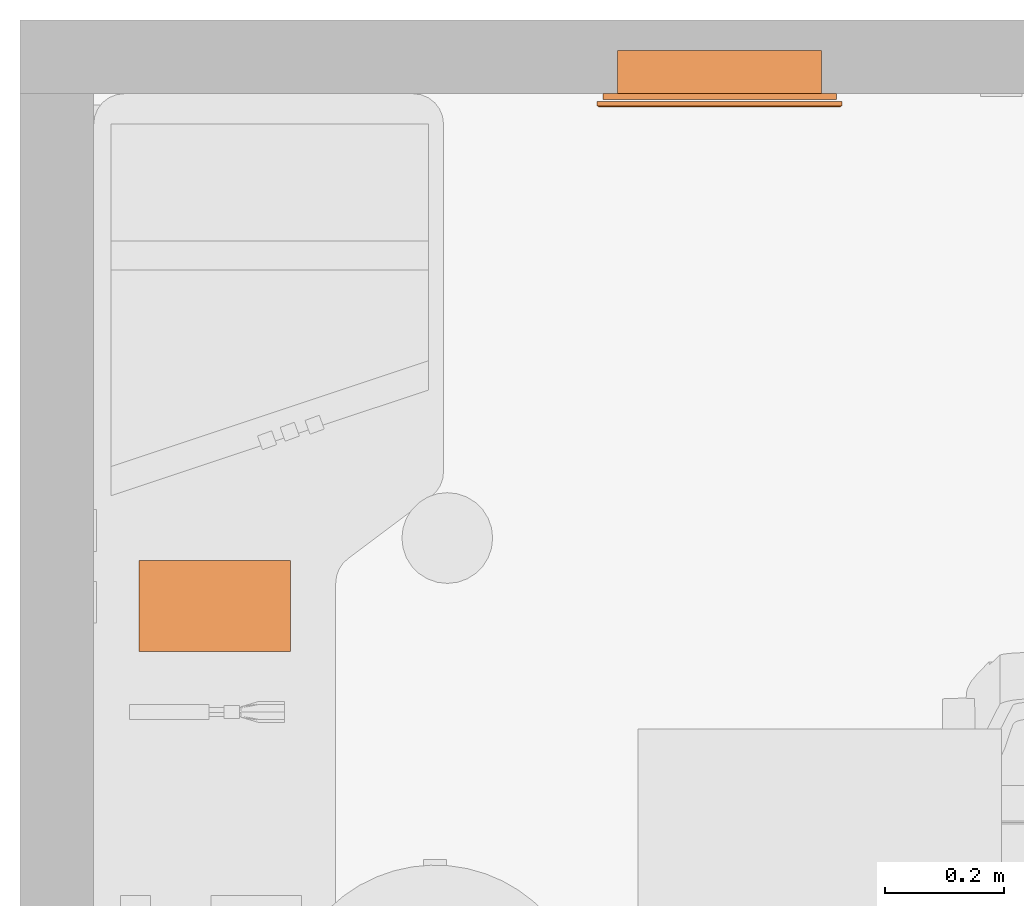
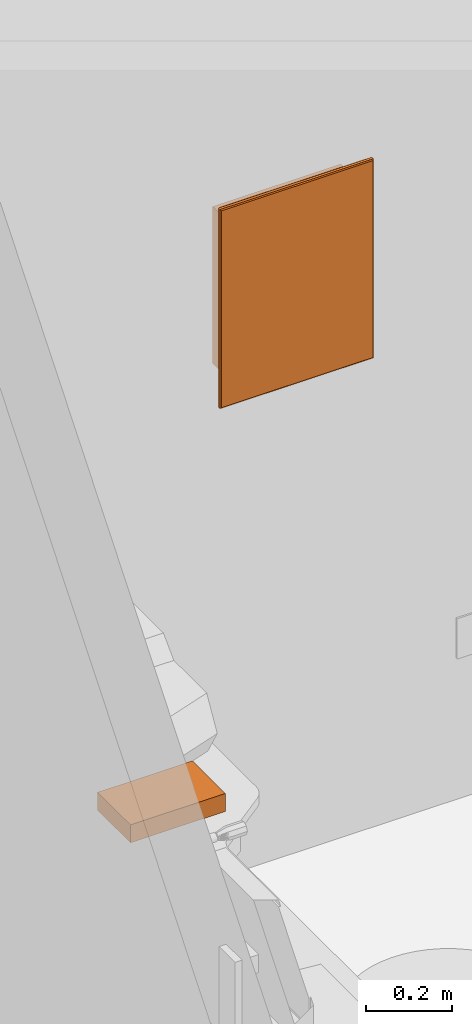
# One storey, part 11 of 11: 2 proxies.
"""IFC2X3 building model written with IfcOpenShell, lengths in feet."""

from ifc_helpers import new_model, entity, si_unit, converted_unit, derived_unit, direction, frame, origin, place, context, subcontext, project, spatial, face_set, faceted_brep, surface_model, source, transform, mapped, material, type_object, type_shapes, element, save


model = new_model("IFC2X3")

# Units and contexts
model_context = context("Model", 3, precision=0.0001, world=origin(), true_north=direction((6.12303176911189e-17, 1.0)))
body_context = subcontext(model_context, "Body", "Model", "MODEL_VIEW")
ifc_project = project(units=[converted_unit("LENGTHUNIT", "FOOT", entity("IfcRatioMeasure", 0.3048), si_unit("LENGTHUNIT", "METRE"), dimensions=[1, 0, 0, 0, 0, 0, 0]), converted_unit("AREAUNIT", "SQUARE FOOT", entity("IfcRatioMeasure", 0.09290304), si_unit("AREAUNIT", "SQUARE_METRE"), dimensions=[2, 0, 0, 0, 0, 0, 0]), converted_unit("VOLUMEUNIT", "CUBIC FOOT", entity("IfcRatioMeasure", 0.028316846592), si_unit("VOLUMEUNIT", "CUBIC_METRE"), dimensions=[3, 0, 0, 0, 0, 0, 0]), converted_unit("PLANEANGLEUNIT", "DEGREE", entity("IfcRatioMeasure", 0.0174532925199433), si_unit("PLANEANGLEUNIT", "RADIAN"), dimensions=[0, 0, 0, 0, 0, 0, 0]), si_unit("MASSUNIT", "GRAM", prefix="KILO"), derived_unit("MASSDENSITYUNIT", [(si_unit("MASSUNIT", "GRAM", prefix="KILO"), 1), (si_unit("LENGTHUNIT", "METRE"), -3)]), si_unit("TIMEUNIT", "SECOND"), si_unit("FREQUENCYUNIT", "HERTZ"), si_unit("THERMODYNAMICTEMPERATUREUNIT", "DEGREE_CELSIUS"), derived_unit("THERMALTRANSMITTANCEUNIT", [(si_unit("MASSUNIT", "GRAM", prefix="KILO"), 1), (si_unit("THERMODYNAMICTEMPERATUREUNIT", "KELVIN"), -1), (si_unit("TIMEUNIT", "SECOND"), -3)]), derived_unit("VOLUMETRICFLOWRATEUNIT", [(si_unit("LENGTHUNIT", "METRE"), 3), (si_unit("TIMEUNIT", "SECOND"), -1)]), si_unit("ELECTRICCURRENTUNIT", "AMPERE"), si_unit("ELECTRICVOLTAGEUNIT", "VOLT"), si_unit("POWERUNIT", "WATT"), si_unit("FORCEUNIT", "NEWTON"), si_unit("ILLUMINANCEUNIT", "LUX"), si_unit("LUMINOUSFLUXUNIT", "LUMEN"), si_unit("LUMINOUSINTENSITYUNIT", "CANDELA"), derived_unit("USERDEFINED", [(si_unit("MASSUNIT", "GRAM", prefix="KILO"), -1), (si_unit("LENGTHUNIT", "METRE"), -2), (si_unit("TIMEUNIT", "SECOND"), 3), (si_unit("LUMINOUSFLUXUNIT", "LUMEN"), 1)]), derived_unit("LINEARVELOCITYUNIT", [(si_unit("LENGTHUNIT", "METRE"), 1), (si_unit("TIMEUNIT", "SECOND"), -1)]), si_unit("PRESSUREUNIT", "PASCAL"), derived_unit("USERDEFINED", [(si_unit("LENGTHUNIT", "METRE"), -2), (si_unit("MASSUNIT", "GRAM", prefix="KILO"), 1), (si_unit("TIMEUNIT", "SECOND"), -2)])], contexts=[model_context])

# Site, building, storey, space
site_placement = place(None, origin())
site = spatial("IfcSite", under=ifc_project, at=site_placement, Name="Default", CompositionType="ELEMENT")
building_placement = place(site_placement, origin())
building = spatial("IfcBuilding", under=site, at=building_placement, Name="EYE CLINIC:  OPTHALMOLOGY AND OPTOMETRY SERVICES (Ch. 233)", CompositionType="ELEMENT")
storey_placement = place(building_placement, origin())
storey = spatial("IfcBuildingStorey", under=building, at=storey_placement, Name="DATUM", CompositionType="ELEMENT", Elevation=0.0)
space_placement = place(storey_placement, origin())
space = spatial("IfcSpace", under=storey, at=space_placement, Name="(OPET2)", CompositionType="ELEMENT", InteriorOrExteriorSpace="INTERNAL")

# Proxies
ifc_material = material(Name="EquipSpace")
building_element_proxy_type_1 = type_object("IfcBuildingElementProxyType", Name="M5705 - Gauge, Distance, Pupillary", PredefinedType="NOTDEFINED", material=ifc_material)
shared_shape_1 = source(origin(), body_context, "Body", "SurfaceModel", [
    surface_model("IfcFaceBasedSurfaceModel", [(0.249999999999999, 0.416666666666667, 0.157529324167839), (-0.25, 0.416666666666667, 0.157529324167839), (-0.25, -0.166666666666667, 0.157529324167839), (-0.105662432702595, -0.416666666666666, 0.157529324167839), (0.105662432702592, -0.416666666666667, 0.157529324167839), (0.249999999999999, -0.166666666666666, 0.157529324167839), (-0.229166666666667, 0.402622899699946, 0.157529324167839), (0.229166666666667, 0.402622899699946, 0.157529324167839), (0.229166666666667, 0.152622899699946, 0.157529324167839), (-0.229166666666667, 0.152622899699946, 0.157529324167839), (0.249999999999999, 0.416666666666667, 0.0), (0.249999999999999, -0.166666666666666, 0.0), (0.105662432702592, -0.416666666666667, 0.0), (-0.105662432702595, -0.416666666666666, 0.0), (-0.25, -0.166666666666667, 0.0), (-0.25, 0.416666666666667, 0.0), (0.229166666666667, 0.402622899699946, 0.150826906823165), (-0.229166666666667, 0.402622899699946, 0.150826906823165), (-0.229166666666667, 0.152622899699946, 0.150826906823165), (0.229166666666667, 0.152622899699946, 0.150826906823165), (0.0833333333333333, -0.125314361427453, 0.166666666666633), (0.0804938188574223, -0.10374610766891, 0.166666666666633), (0.0721687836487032, -0.0836476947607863, 0.166666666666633), (0.058925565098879, -0.0663887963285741, 0.166666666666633), (0.0416666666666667, -0.0531455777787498, 0.166666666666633), (0.0215682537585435, -0.0448205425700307, 0.166666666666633), (0.0, -0.0419810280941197, 0.166666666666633), (-0.0215682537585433, -0.0448205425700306, 0.166666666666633), (-0.0416666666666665, -0.0531455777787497, 0.166666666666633), (-0.0589255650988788, -0.0663887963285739, 0.166666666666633), (-0.0721687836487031, -0.0836476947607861, 0.166666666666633), (-0.0804938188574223, -0.103746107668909, 0.166666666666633), (-0.0833333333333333, -0.125314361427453, 0.166666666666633), (-0.0804938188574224, -0.146882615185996, 0.166666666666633), (-0.0721687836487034, -0.166981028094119, 0.166666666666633), (-0.0589255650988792, -0.184239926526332, 0.166666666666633), (-0.0416666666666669, -0.197483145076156, 0.166666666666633), (-0.0215682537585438, -0.205808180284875, 0.166666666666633), (0.0, -0.208647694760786, 0.166666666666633), (0.021568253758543, -0.205808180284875, 0.166666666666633), (0.0416666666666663, -0.197483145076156, 0.166666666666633), (0.0589255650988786, -0.184239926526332, 0.166666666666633), (0.072168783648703, -0.16698102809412, 0.166666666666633), (0.0804938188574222, -0.146882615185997, 0.166666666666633), (0.0833333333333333, -0.125314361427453, 0.157529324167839), (0.0804938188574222, -0.146882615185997, 0.157529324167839), (0.072168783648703, -0.16698102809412, 0.157529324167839), (0.0589255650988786, -0.184239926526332, 0.157529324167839), (0.0416666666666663, -0.197483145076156, 0.157529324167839), (0.021568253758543, -0.205808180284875, 0.157529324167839), (0.0, -0.208647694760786, 0.157529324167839), (-0.0215682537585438, -0.205808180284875, 0.157529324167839), (-0.0416666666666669, -0.197483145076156, 0.157529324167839), (-0.0589255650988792, -0.184239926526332, 0.157529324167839), (-0.0721687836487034, -0.166981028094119, 0.157529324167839), (-0.0804938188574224, -0.146882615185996, 0.157529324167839), (-0.0833333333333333, -0.125314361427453, 0.157529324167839), (-0.0804938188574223, -0.103746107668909, 0.157529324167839), (-0.0721687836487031, -0.0836476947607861, 0.157529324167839), (-0.0589255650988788, -0.0663887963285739, 0.157529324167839), (-0.0416666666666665, -0.0531455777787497, 0.157529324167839), (-0.0215682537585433, -0.0448205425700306, 0.157529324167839), (0.0, -0.0419810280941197, 0.157529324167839), (0.0215682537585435, -0.0448205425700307, 0.157529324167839), (0.0416666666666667, -0.0531455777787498, 0.157529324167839), (0.058925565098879, -0.0663887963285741, 0.157529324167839), (0.0721687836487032, -0.0836476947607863, 0.157529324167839), (0.0804938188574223, -0.10374610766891, 0.157529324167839)], [face_set([[[0, 1, 2, 3, 4, 5], [6, 7, 8, 9]], [[10, 11, 12, 13, 14, 15]], [[1, 0, 10, 15]], [[2, 1, 15, 14]], [[3, 2, 14, 13]], [[4, 3, 13, 12]], [[5, 4, 12, 11]], [[0, 5, 11, 10]], [[16, 17, 18, 19]], [[17, 16, 7, 6]], [[18, 17, 6, 9]], [[19, 18, 9, 8]], [[16, 19, 8, 7]]]), face_set([[[20, 21, 22, 23, 24, 25, 26, 27, 28, 29, 30, 31, 32, 33, 34, 35, 36, 37, 38, 39, 40, 41, 42, 43]], [[44, 45, 46, 47, 48, 49, 50, 51, 52, 53, 54, 55, 56, 57, 58, 59, 60, 61, 62, 63, 64, 65, 66, 67]], [[56, 55, 33, 32]], [[55, 54, 34, 33]], [[53, 52, 36, 35]], [[54, 53, 35, 34]], [[52, 51, 37, 36]], [[38, 37, 51, 50]], [[50, 49, 39, 38]], [[49, 48, 40, 39]], [[47, 46, 42, 41]], [[48, 47, 41, 40]], [[46, 45, 43, 42]], [[20, 43, 45, 44]], [[44, 67, 21, 20]], [[67, 66, 22, 21]], [[65, 64, 24, 23]], [[66, 65, 23, 22]], [[64, 63, 25, 24]], [[26, 25, 63, 62]], [[62, 61, 27, 26]], [[61, 60, 28, 27]], [[59, 58, 30, 29]], [[60, 59, 29, 28]], [[58, 57, 31, 30]], [[32, 31, 57, 56]]])]),
    surface_model("IfcFaceBasedSurfaceModel", [(-0.25, 0.416666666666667, 0.166666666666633), (-0.25, 0.0, 0.166666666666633), (-0.25, -0.416666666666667, 0.166666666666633), (0.25, -0.416666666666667, 0.166666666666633), (0.25, 0.416666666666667, 0.166666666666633), (-0.25, 0.416666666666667, 0.0), (0.25, 0.416666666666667, 0.0), (0.25, -0.416666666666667, 0.0), (-0.25, -0.416666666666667, 0.0), (-0.25, 0.0, 0.0), (0.229166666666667, 0.402622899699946, 0.157529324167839), (-0.229166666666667, 0.402622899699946, 0.157529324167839), (-0.229166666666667, 0.152622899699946, 0.157529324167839), (0.229166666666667, 0.152622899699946, 0.157529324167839), (0.229166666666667, 0.402622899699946, 0.150826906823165), (0.229166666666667, 0.152622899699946, 0.150826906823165), (-0.229166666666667, 0.152622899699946, 0.150826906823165), (-0.229166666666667, 0.402622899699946, 0.150826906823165)], [face_set([[[0, 1, 2, 3, 4]], [[5, 6, 7, 8, 9]], [[1, 0, 5, 9]], [[2, 1, 9, 8]], [[3, 2, 8, 7]], [[4, 3, 7, 6]], [[0, 4, 6, 5]]]), face_set([[[10, 11, 12, 13]], [[14, 15, 16, 17]], [[10, 14, 17, 11]], [[11, 17, 16, 12]], [[12, 16, 15, 13]], [[13, 15, 14, 10]]])]),
])
type_shapes(building_element_proxy_type_1, [shared_shape_1])
proxy_1_placement = place(space_placement, frame((-35.193564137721, 8.98470901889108, 3.08333333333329), z_axis=(0.0, 0.0, 1.0), x_axis=(0.0, -1.0, 0.0)))
element("IfcBuildingElementProxy", 1, at=proxy_1_placement, inside=space, type_object=building_element_proxy_type_1, material=ifc_material, Name="M5705 - Gauge, Distance, Pupillary:M5705 - Gauge, Distance, Pupillary", ObjectType="M5705 - Gauge, Distance, Pupillary", context=body_context, shape_type="MappedRepresentation", body=[
    mapped(shared_shape_1, transform((0.0, 0.0, 0.0), scale=1.0)),
])
building_element_proxy_type_2 = type_object("IfcBuildingElementProxyType", Name="A5048 - Cabinet, Medication, Security, Wall Mounted", PredefinedType="NOTDEFINED")
shared_shape_2 = source(origin(), body_context, "Body", "Brep", [
    faceted_brep([(-0.664083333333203, -0.914083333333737, 0.0729166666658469), (-0.664083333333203, -0.914083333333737, 0.0663549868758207), (-0.664083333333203, 0.914083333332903, 0.0663549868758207), (-0.664083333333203, 0.914083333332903, 0.0729166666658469), (-0.674499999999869, -0.924500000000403, 0.0663549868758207), (-0.674499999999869, 0.924499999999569, 0.0663549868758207), (0.664083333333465, 0.914083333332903, 0.0663549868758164), (0.664083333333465, 0.914083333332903, 0.0729166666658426), (0.674500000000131, 0.924499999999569, 0.0663549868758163), (0.664083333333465, -0.914083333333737, 0.0663549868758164), (0.664083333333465, -0.914083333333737, 0.0729166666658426), (0.674500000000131, -0.924500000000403, 0.0663549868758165)], [[[0, 1, 2, 3]], [[4, 0, 3, 5]], [[3, 2, 6, 7]], [[5, 3, 7, 8]], [[7, 6, 9, 10]], [[8, 7, 10, 11]], [[10, 9, 1, 0]], [[11, 10, 0, 4]], [[5, 8, 11, 4], [1, 9, 6, 2]]]),
    faceted_brep([(0.664083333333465, 0.914083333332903, 0.0729166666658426), (-0.664083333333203, 0.914083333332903, 0.0729166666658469), (-0.664083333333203, -0.914083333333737, 0.0729166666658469), (0.664083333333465, -0.914083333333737, 0.0729166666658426), (0.664083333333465, 0.914083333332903, 0.0663549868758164), (0.664083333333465, -0.914083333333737, 0.0663549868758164), (-0.664083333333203, -0.914083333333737, 0.0663549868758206), (-0.664083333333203, 0.914083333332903, 0.0663549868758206)], [[[0, 1, 2, 3]], [[4, 5, 6, 7]], [[1, 0, 4, 7]], [[2, 1, 7, 6]], [[3, 2, 6, 5]], [[0, 3, 5, 4]]]),
    faceted_brep([(0.674500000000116, 0.924499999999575, 0.0663549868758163), (-0.674499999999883, 0.924499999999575, 0.0663549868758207), (-0.674499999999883, -0.924500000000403, 0.0663549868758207), (0.674500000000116, -0.924500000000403, 0.0663549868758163), (0.674500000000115, 0.924499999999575, 0.0416666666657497), (0.674500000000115, -0.924500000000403, 0.0416666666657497), (-0.674499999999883, -0.924500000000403, 0.0416666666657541), (-0.674499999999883, 0.924499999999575, 0.0416666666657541)], [[[0, 1, 2, 3]], [[4, 5, 6, 7]], [[1, 0, 4, 7]], [[2, 1, 7, 6]], [[3, 2, 6, 5]], [[0, 3, 5, 4]]]),
    faceted_brep([(0.643250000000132, 0.89324999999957, 0.0312499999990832), (0.538127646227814, 0.666666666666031, 0.0312499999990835), (0.548533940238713, 0.641543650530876, 0.0312499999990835), (0.521573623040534, 0.688240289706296, 0.0312499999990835), (0.552083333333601, 0.614583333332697, 0.0312499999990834), (0.552083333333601, -0.61458333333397, 0.0312499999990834), (0.500000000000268, 0.704794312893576, 0.0312499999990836), (0.474876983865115, 0.715200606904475, 0.0312499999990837), (0.447916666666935, 0.718749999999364, 0.0312499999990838), (-0.447916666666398, 0.718749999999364, 0.0312499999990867), (0.643250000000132, -0.893250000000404, 0.0312499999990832), (-0.643249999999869, 0.89324999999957, 0.0312499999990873), (-0.474876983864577, 0.715200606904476, 0.0312499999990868), (-0.499999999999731, 0.704794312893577, 0.0312499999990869), (-0.521573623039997, 0.688240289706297, 0.0312499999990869), (-0.538127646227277, 0.666666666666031, 0.031249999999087), (-0.548533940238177, 0.641543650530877, 0.031249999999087), (-0.552083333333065, 0.614583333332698, 0.031249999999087), (-0.552083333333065, -0.614583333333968, 0.031249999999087), (-0.643249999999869, -0.893250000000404, 0.0312499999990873), (-0.548533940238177, -0.641543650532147, 0.031249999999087), (-0.538127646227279, -0.666666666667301, 0.031249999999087), (-0.521573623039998, -0.688240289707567, 0.0312499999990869), (-0.499999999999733, -0.704794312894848, 0.0312499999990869), (-0.474876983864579, -0.715200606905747, 0.0312499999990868), (-0.447916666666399, -0.718750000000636, 0.0312499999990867), (0.548533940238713, -0.641543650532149, 0.0312499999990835), (0.538127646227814, -0.666666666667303, 0.0312499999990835), (0.521573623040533, -0.688240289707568, 0.0312499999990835), (0.500000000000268, -0.704794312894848, 0.0312499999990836), (0.474876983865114, -0.715200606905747, 0.0312499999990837), (0.447916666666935, -0.718750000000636, 0.0312499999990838), (-0.562499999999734, -0.729166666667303, -0.239583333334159), (-0.562499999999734, 0.729166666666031, -0.239583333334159), (0.562500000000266, 0.729166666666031, -0.239583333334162), (0.562500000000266, -0.729166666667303, -0.239583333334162), (-0.562499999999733, 0.729166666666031, 0.0), (0.562500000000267, 0.729166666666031, 0.0), (-0.562499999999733, -0.729166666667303, 0.0), (0.562500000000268, -0.729166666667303, 0.0), (-0.643249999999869, 0.89324999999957, 0.0), (-0.643249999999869, -0.893250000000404, 0.0), (0.643250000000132, 0.89324999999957, 0.0), (0.643250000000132, -0.893250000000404, 0.0), (-0.548533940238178, 0.641543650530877, -0.229166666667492), (-0.552083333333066, 0.614583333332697, -0.229166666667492), (-0.552083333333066, -0.614583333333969, -0.229166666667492), (-0.548533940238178, -0.641543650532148, -0.229166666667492), (-0.538127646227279, -0.666666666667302, -0.229166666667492), (-0.521573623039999, -0.688240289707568, -0.229166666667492), (-0.499999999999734, -0.704794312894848, -0.229166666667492), (-0.47487698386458, -0.715200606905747, -0.229166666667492), (-0.4479166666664, -0.718750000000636, -0.229166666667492), (0.447916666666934, -0.718750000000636, -0.229166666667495), (0.474876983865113, -0.715200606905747, -0.229166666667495), (0.500000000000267, -0.704794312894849, -0.229166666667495), (0.521573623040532, -0.688240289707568, -0.229166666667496), (0.538127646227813, -0.666666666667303, -0.229166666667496), (0.548533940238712, -0.641543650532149, -0.229166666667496), (0.552083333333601, -0.61458333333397, -0.229166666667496), (0.552083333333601, 0.614583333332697, -0.229166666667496), (0.548533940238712, 0.641543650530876, -0.229166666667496), (0.538127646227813, 0.66666666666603, -0.229166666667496), (0.521573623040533, 0.688240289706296, -0.229166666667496), (0.500000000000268, 0.704794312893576, -0.229166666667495), (0.474876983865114, 0.715200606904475, -0.229166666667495), (0.447916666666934, 0.718749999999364, -0.229166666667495), (-0.4479166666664, 0.718749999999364, -0.229166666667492), (-0.474876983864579, 0.715200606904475, -0.229166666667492), (-0.499999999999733, 0.704794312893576, -0.229166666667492), (-0.521573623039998, 0.688240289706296, -0.229166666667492), (-0.538127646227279, 0.666666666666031, -0.229166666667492)], [[[0, 1, 2]], [[1, 0, 3]], [[2, 4, 0]], [[0, 4, 5]], [[6, 3, 0]], [[7, 6, 0]], [[8, 7, 0]], [[0, 9, 8]], [[5, 10, 0]], [[9, 0, 11]], [[12, 9, 11]], [[12, 11, 13]], [[14, 13, 11]], [[11, 15, 14]], [[15, 11, 16]], [[17, 16, 11]], [[11, 18, 17]], [[18, 11, 19]], [[20, 18, 19]], [[19, 21, 20]], [[21, 19, 22]], [[23, 22, 19]], [[23, 19, 24]], [[25, 24, 19]], [[25, 19, 10]], [[5, 26, 10]], [[27, 10, 26]], [[10, 27, 28]], [[28, 29, 10]], [[29, 30, 10]], [[30, 31, 10]], [[10, 31, 25]], [[32, 33, 34, 35]], [[36, 37, 34, 33]], [[38, 36, 33, 32]], [[39, 38, 32, 35]], [[37, 39, 35, 34]], [[40, 36, 38]], [[36, 40, 37]], [[38, 41, 40]], [[42, 37, 40]], [[37, 42, 39]], [[43, 39, 42]], [[39, 43, 41]], [[41, 38, 39]], [[11, 0, 42, 40]], [[19, 11, 40, 41]], [[10, 19, 41, 43]], [[0, 10, 43, 42]], [[44, 45, 46, 47, 48, 49, 50, 51, 52, 53, 54, 55, 56, 57, 58, 59, 60, 61, 62, 63, 64, 65, 66, 67, 68, 69, 70, 71]], [[66, 8, 9, 67]], [[69, 68, 12, 13]], [[70, 69, 13, 14]], [[9, 12, 68, 67]], [[44, 71, 15, 16]], [[45, 44, 16, 17]], [[15, 71, 70, 14]], [[45, 17, 18, 46]], [[48, 47, 20, 21]], [[49, 48, 21, 22]], [[18, 20, 47, 46]], [[51, 50, 23, 24]], [[52, 51, 24, 25]], [[23, 50, 49, 22]], [[52, 25, 31, 53]], [[55, 54, 30, 29]], [[56, 55, 29, 28]], [[31, 30, 54, 53]], [[58, 57, 27, 26]], [[59, 58, 26, 5]], [[27, 57, 56, 28]], [[59, 5, 4, 60]], [[62, 61, 2, 1]], [[63, 62, 1, 3]], [[4, 2, 61, 60]], [[65, 64, 6, 7]], [[66, 65, 7, 8]], [[6, 64, 63, 3]]]),
])
type_shapes(building_element_proxy_type_2, [shared_shape_2])
proxy_2_placement = place(space_placement, frame((-32.4123141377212, 11.8076256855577, 5.33333333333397), z_axis=(0.0, -1.0, 0.0), x_axis=(1.0, 0.0, 0.0)))
element("IfcBuildingElementProxy", 2, at=proxy_2_placement, inside=space, type_object=building_element_proxy_type_2, Name="A5048 - Cabinet, Medication, Security, Wall Mounted:A5048 - Cabinet, Medication, Security, Wall Mounted", ObjectType="A5048 - Cabinet, Medication, Security, Wall Mounted", context=body_context, shape_type="MappedRepresentation", body=[
    mapped(shared_shape_2, transform((0.0, 0.0, 0.0), scale=1.0)),
])

save(model, "model.ifc")
